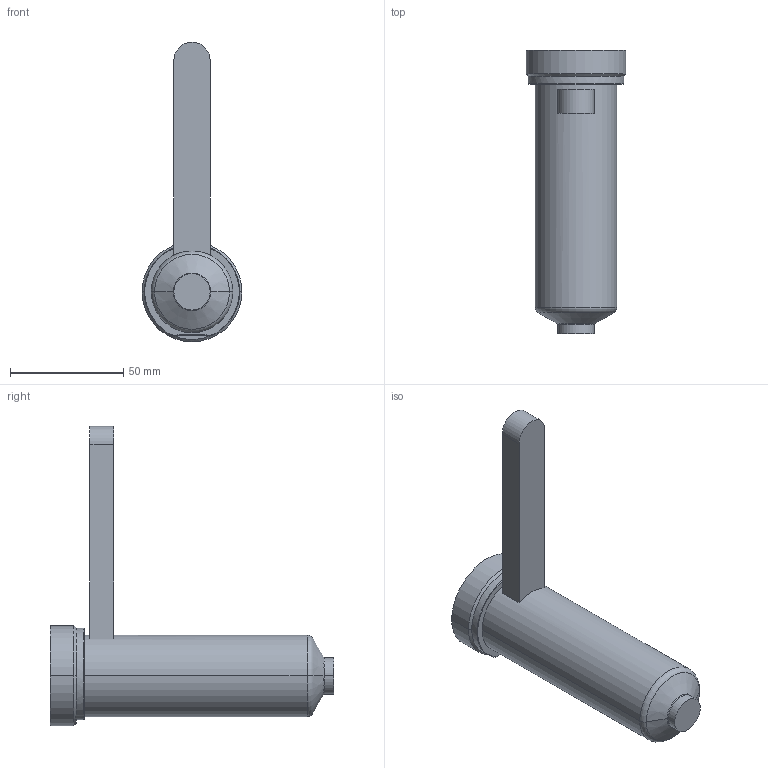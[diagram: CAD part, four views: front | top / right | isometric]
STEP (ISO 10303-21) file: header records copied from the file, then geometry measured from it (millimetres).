
FILE_DESCRIPTION((''),'2;1');
FILE_NAME('EO12_VG-FB_STD_110_COT','2024-02-19T13:37:59',('sundharh'),(''),'CREO PARAMETRIC BY PTC INC, 2023154','CREO PARAMETRIC BY PTC INC, 2023154','');
FILE_SCHEMA(('CONFIG_CONTROL_DESIGN'));
Length unit declared in the file: millimetre
Products named in the file (1): EO12_VG-FB_STD_110_COT
Bounding box: 44 x 125 x 132 mm (x, y, z)
Volume: 143213 mm3; surface area: 21404.2 mm2
Topology: 1 solids, 1 shells, 31 faces, 67 edges, 40 vertices
Faces by surface type: cylinder 11, plane 9, torus 7, cone 4
Entity records: 951 total; most frequent: CARTESIAN_POINT 218, DIRECTION 159, ORIENTED_EDGE 134, AXIS2_PLACEMENT_3D 67, EDGE_CURVE 67, VERTEX_POINT 40, CIRCLE 36, EDGE_LOOP 33
